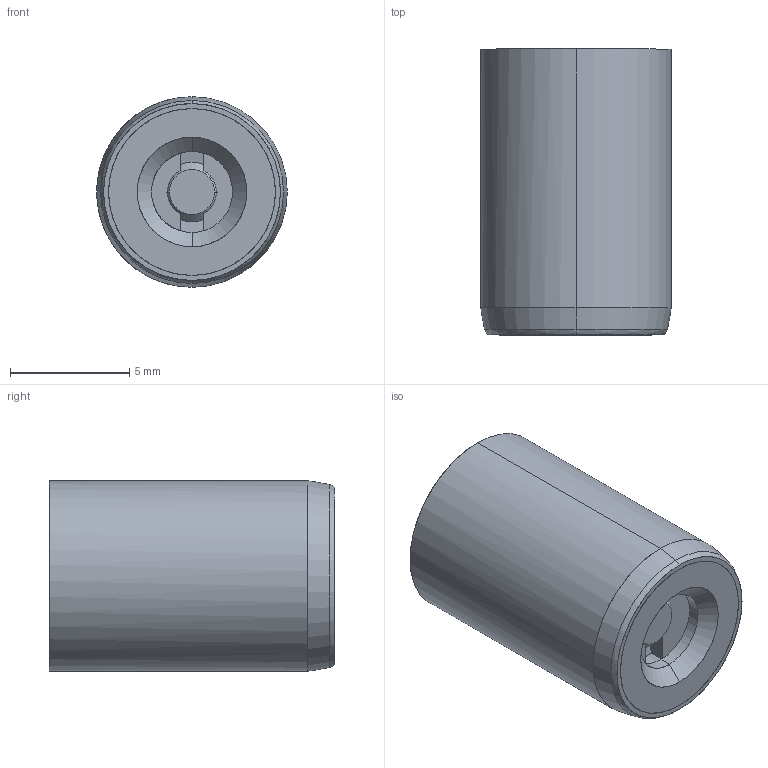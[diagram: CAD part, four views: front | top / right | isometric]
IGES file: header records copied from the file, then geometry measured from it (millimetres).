
Start section: START RECORD GO HERE.
Global section: file name: va086512.igs; native system: DASSAULT SYSTEMES CATIA V5 R20 - www.3ds.com; preprocessor: CATIA Version 5 Release 20 ; author: Utente; organization: NB04-ASUS; date: 20201107.140736; units: millimetre
Bounding box: 8 x 12 x 8 mm (x, y, z)
Surface area: 1086.4 mm2 (no closed solid volume)
Topology: 0 solids, 0 shells, 139 faces, 645 edges, 645 vertices
Faces by surface type: revolution 56, bspline 56, plane 27
